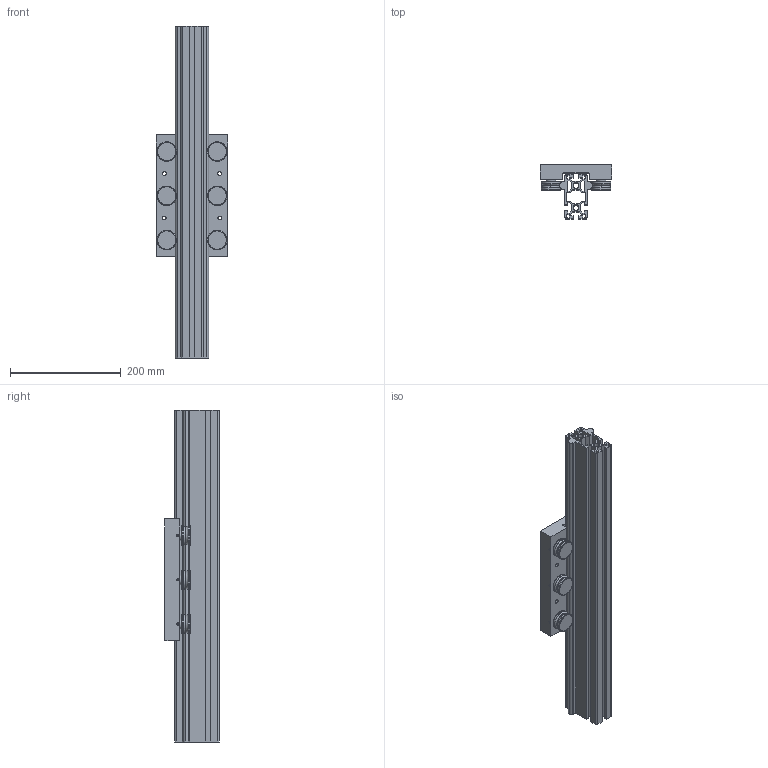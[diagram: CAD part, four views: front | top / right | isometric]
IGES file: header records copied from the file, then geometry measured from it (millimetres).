
Start section: SolidWorks IGES file using analytic representation for surfaces
Bounding box: 130 x 98 x 600 mm (x, y, z)
Surface area: 600637.8 mm2 (no closed solid volume)
Topology: 0 solids, 0 shells, 525 faces, 7950 edges, 7950 vertices
Faces by surface type: bspline 270, revolution 255
